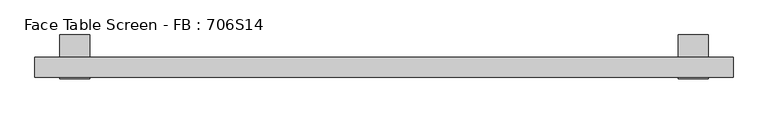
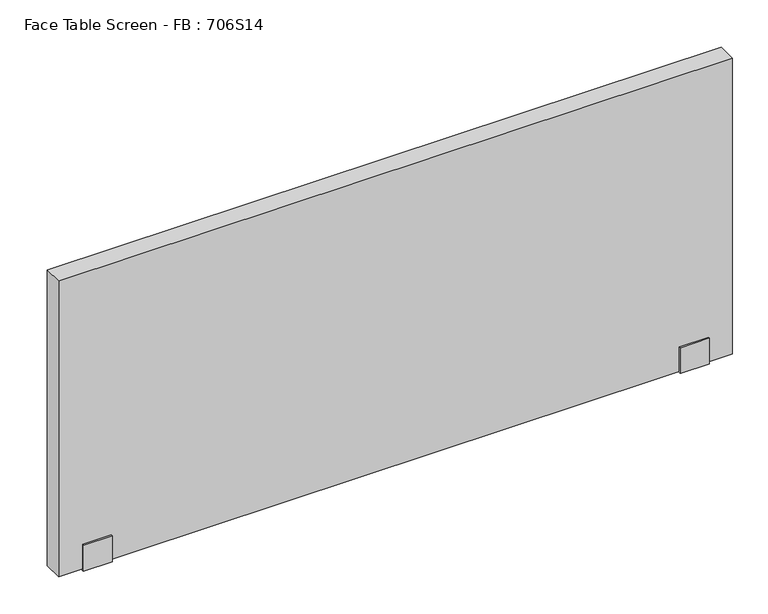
"""IFC4 building model written with IfcOpenShell, lengths in millimetres: furniture geometry, Face Table Screen - FB : 706S14."""

from ifc_helpers import new_model, si_unit, frame, origin, place, context, project, spatial, polyline, outline, extrude, source, transform, mapped, element, save


def face_table_screen_fb_706s14_3284f1b9(model_context):
    return source(origin(), model_context, "Body", "SweptSolid", [
        extrude(outline(polyline([(-42.9999947, -256.0), (-42.9999997, -199.0433898), (-40.0, -199.0433898), (-40.0, -253.0), (0.0, -253.0), (0.0, -22.0), (45.0, -22.0), (45.0, -25.0433898), (3.0000062, -25.0433898), (2.9999947, -256.0), (-42.9999947, -256.0)])), frame((609.9863751, 0.0, 0.0), z_axis=(1.0, 0.0, 0.0), x_axis=(0.0, 1.0, 0.0)), (0.0, 0.0, 1.0), 60.0),
        extrude(outline(polyline([(-42.9999947, -256.0), (-42.9999997, -199.0433898), (-40.0, -199.0433898), (-40.0, -253.0), (0.0, -253.0), (0.0, -22.0), (45.0, -22.0), (45.0, -25.0433898), (3.0000062, -25.0433898), (2.9999947, -256.0), (-42.9999947, -256.0)])), frame((-630.0136249, 0.0, 0.0), z_axis=(1.0, 0.0, 0.0), x_axis=(0.0, 1.0, 0.0)), (0.0, 0.0, 1.0), 60.0),
        extrude(outline(polyline([(719.9863751, -40.0), (-680.0136249, -40.0), (-680.0136249, 0.0), (719.9863751, 0.0), (719.9863751, -40.0)])), frame((0.0, 0.0, -253.0), z_axis=(0.0, 0.0, 1.0), x_axis=(1.0, 0.0, 0.0)), (0.0, 0.0, 1.0), 650.0),
    ])


if __name__ == "__main__":
    model = new_model("IFC4")
    model_context = context("Model", 3, world=origin())
    ifc_project = project(units=[si_unit("LENGTHUNIT", "METRE", prefix="MILLI")], contexts=[model_context])
    site = spatial("IfcSite", under=ifc_project)
    building = spatial("IfcBuilding", under=site)
    placement = place(None, origin())
    face_table_screen_fb_706s14_shape = face_table_screen_fb_706s14_3284f1b9(model_context)
    element("IfcFurniture", 1, ObjectType="Face Table Screen - FB : 706S14", at=placement, inside=building, context=model_context, shape_type="MappedRepresentation", body=[
        mapped(face_table_screen_fb_706s14_shape, transform((0.0, 0.0, 0.0), x_axis=(1.0, 0.0, 0.0), y_axis=(0.0, 1.0, 0.0), z_axis=(0.0, 0.0, 1.0))),
    ])
    save(model, "model.ifc")
